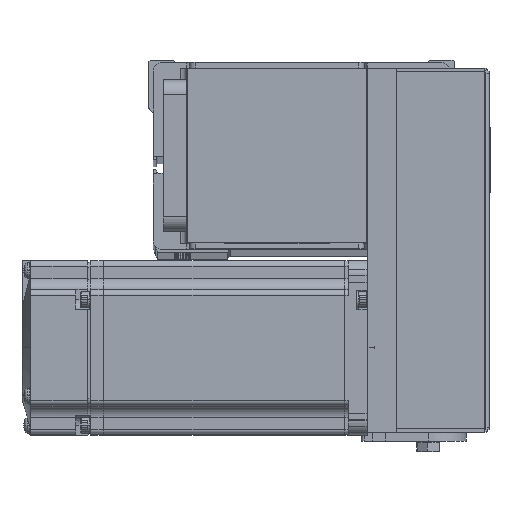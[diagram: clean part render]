
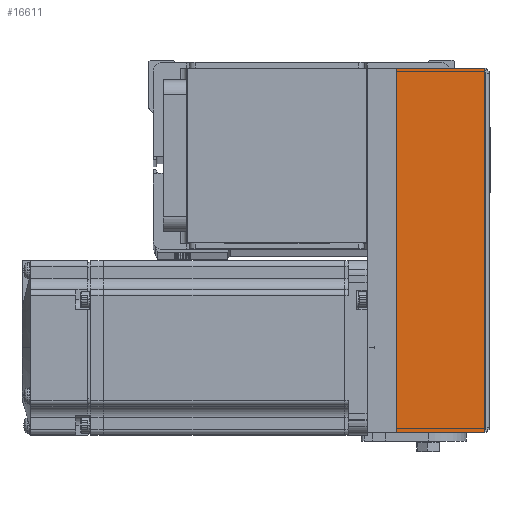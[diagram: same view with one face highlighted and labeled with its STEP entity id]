
A CAD part, top view. The second image highlights one B-rep face of the part: STEP entity #16611.
In plain terms, the highlighted planar face has unit normal (0, 0, 1).
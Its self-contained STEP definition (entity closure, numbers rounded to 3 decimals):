
#1926 = EDGE_CURVE ( 'NONE', #35300, #6955, #39359, .T. ) ;
#4563 = ORIENTED_EDGE ( 'NONE', *, *, #25294, .F. ) ;
#6955 = VERTEX_POINT ( 'NONE', #29340 ) ;
#7533 = ORIENTED_EDGE ( 'NONE', *, *, #8230, .T. ) ;
#8230 = EDGE_CURVE ( 'NONE', #37362, #25733, #11582, .T. ) ;
#8326 = LINE ( 'NONE', #23954, #13353 ) ;
#8492 = VECTOR ( 'NONE', #47321, 1000. ) ;
#11582 = LINE ( 'NONE', #46960, #19064 ) ;
#12418 = ORIENTED_EDGE ( 'NONE', *, *, #45906, .T. ) ;
#13353 = VECTOR ( 'NONE', #32663, 1000. ) ;
#16611 = ADVANCED_FACE ( 'NONE', ( #22790 ), #26387, .F. ) ;
#18903 = CARTESIAN_POINT ( 'NONE',  ( -62.5, -30.3, 31. ) ) ;
#19064 = VECTOR ( 'NONE', #35156, 1000. ) ;
#20302 = CARTESIAN_POINT ( 'NONE',  ( 62.5, -30.3, 31. ) ) ;
#21216 = AXIS2_PLACEMENT_3D ( 'NONE', #22287, #30500, #42266 ) ;
#22287 = CARTESIAN_POINT ( 'NONE',  ( 0., -30.8, 31. ) ) ;
#22790 = FACE_OUTER_BOUND ( 'NONE', #50181, .T. ) ;
#23718 = CARTESIAN_POINT ( 'NONE',  ( 62.5, 0., 31. ) ) ;
#23954 = CARTESIAN_POINT ( 'NONE',  ( -62.5, -30.3, 31. ) ) ;
#24379 = DIRECTION ( 'NONE',  ( 0., 1., 0. ) ) ;
#25294 = EDGE_CURVE ( 'NONE', #6955, #25733, #8326, .T. ) ;
#25733 = VERTEX_POINT ( 'NONE', #29803 ) ;
#26387 = PLANE ( 'NONE',  #21216 ) ;
#29340 = CARTESIAN_POINT ( 'NONE',  ( -62.5, -30.3, 31. ) ) ;
#29803 = CARTESIAN_POINT ( 'NONE',  ( -62.5, 0., 31. ) ) ;
#30500 = DIRECTION ( 'NONE',  ( 0., 0., -1. ) ) ;
#32663 = DIRECTION ( 'NONE',  ( 0., 1., 0. ) ) ;
#33640 = CARTESIAN_POINT ( 'NONE',  ( 62.5, -30.3, 31. ) ) ;
#35156 = DIRECTION ( 'NONE',  ( -1., 0., 0. ) ) ;
#35300 = VERTEX_POINT ( 'NONE', #33640 ) ;
#37362 = VERTEX_POINT ( 'NONE', #23718 ) ;
#39359 = LINE ( 'NONE', #18903, #8492 ) ;
#42266 = DIRECTION ( 'NONE',  ( 0., -1., 0. ) ) ;
#42356 = ORIENTED_EDGE ( 'NONE', *, *, #1926, .F. ) ;
#44620 = LINE ( 'NONE', #20302, #46106 ) ;
#45906 = EDGE_CURVE ( 'NONE', #35300, #37362, #44620, .T. ) ;
#46106 = VECTOR ( 'NONE', #24379, 1000. ) ;
#46960 = CARTESIAN_POINT ( 'NONE',  ( 0., 0., 31. ) ) ;
#47321 = DIRECTION ( 'NONE',  ( -1., 0., 0. ) ) ;
#50181 = EDGE_LOOP ( 'NONE', ( #42356, #12418, #7533, #4563 ) ) ;
